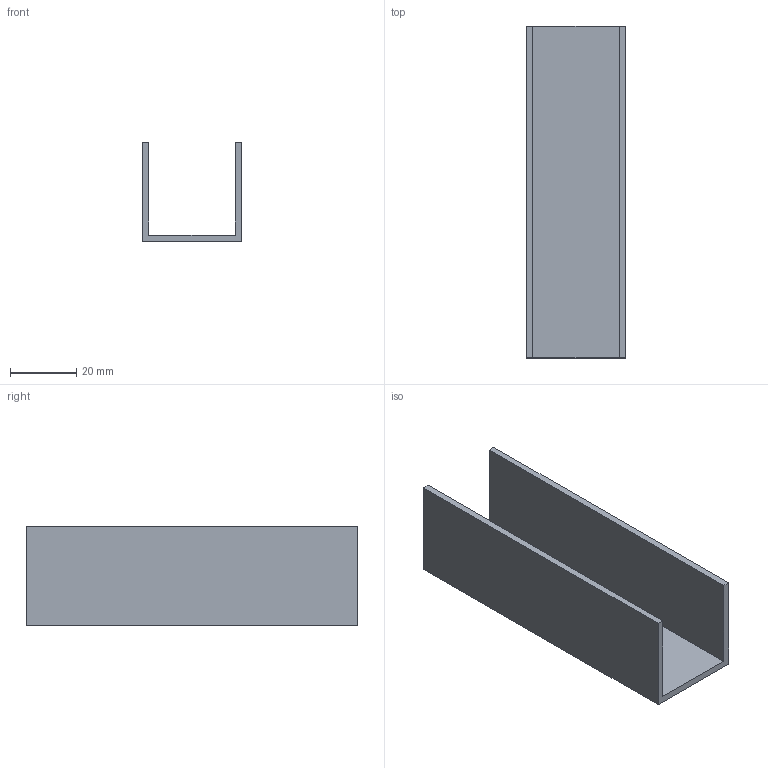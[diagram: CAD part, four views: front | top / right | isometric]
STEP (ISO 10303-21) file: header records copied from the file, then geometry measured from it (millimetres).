
FILE_DESCRIPTION(('FreeCAD Model'),'2;1');
FILE_NAME('/home/alexandre/Bureau/Cours-FreeCAD/Exercices/Exo-1.step', '2016-05-29T14:48:18',('Almisuifre'),(''), 'Open CASCADE STEP processor 6.8','FreeCAD','Unknown');
FILE_SCHEMA(('AUTOMOTIVE_DESIGN_CC2 { 1 2 10303 214 -1 1 5 4 }'));
Length unit declared in the file: millimetre
Products named in the file (2): ASSEMBLY; Pad
Assembly tree (1 placements, depth 2):
  ASSEMBLY
    Pad
Bounding box: 30 x 100 x 30 mm (x, y, z)
Volume: 17200 mm3; surface area: 17944 mm2
Topology: 1 solids, 1 shells, 10 faces, 24 edges, 16 vertices
Faces by surface type: plane 10
Entity records: 639 total; most frequent: CARTESIAN_POINT 100, DIRECTION 96, LINE 72, VECTOR 72, ORIENTED_EDGE 48, PCURVE 48, DEFINITIONAL_REPRESENTATION 48, EDGE_CURVE 24
